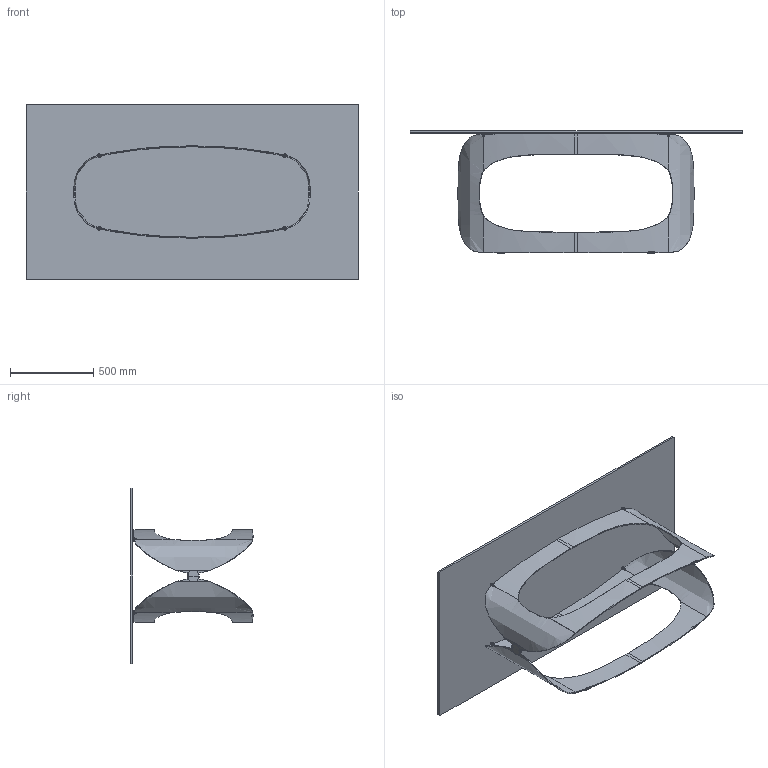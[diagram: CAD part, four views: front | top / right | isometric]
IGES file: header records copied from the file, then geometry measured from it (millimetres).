
Start section: SolidWorks IGES file using analytic representation for surfaces
Global section: file name: Y:\eforma\TECNICO\SOLIDWORKS\E-FORMA\1-TAVOLI\POLIFEMO\02 parts\PO21G.IGS; native system: SolidWorks 2022; preprocessor: SolidWorks 2022; author: eforma.tech; date: 240806.160826; units: millimetre
Bounding box: 2000 x 736.97 x 1060 mm (x, y, z)
Volume: 32658613 mm3; surface area: 6840057.2 mm2
Topology: 24 solids, 24 shells, 476 faces, 1180 edges, 758 vertices
Faces by surface type: revolution 241, plane 155, bspline 80
